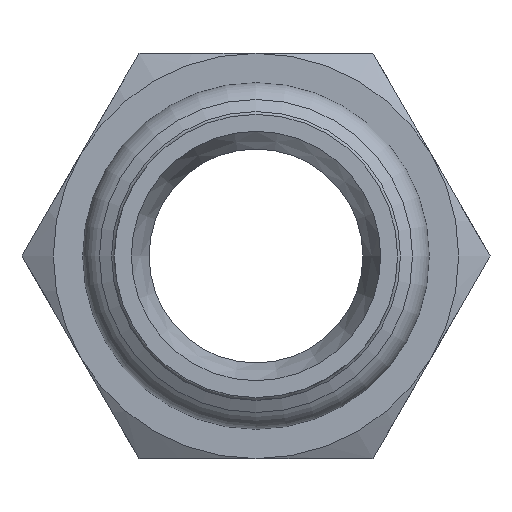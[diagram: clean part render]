
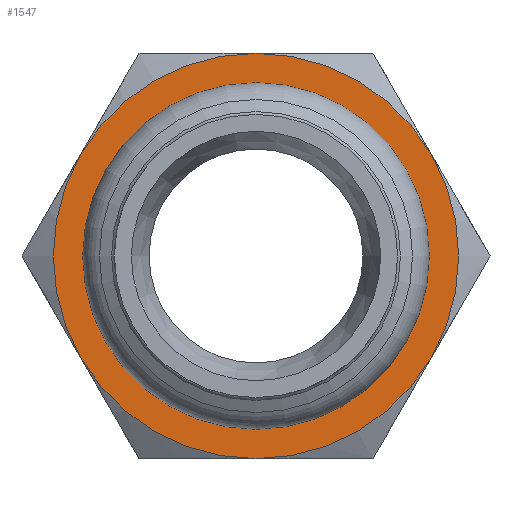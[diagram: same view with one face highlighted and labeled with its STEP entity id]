
A CAD part, left-side view. The second image highlights one B-rep face of the part: STEP entity #1547.
In plain terms, the highlighted planar face has unit normal (-1, 0, 0) as drawn and (0, 0, 1) by its records, which use the part's own axes.
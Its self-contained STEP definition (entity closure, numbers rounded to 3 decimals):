
#1024=CARTESIAN_POINT('',(15.588,9.,-6.));
#1025=VERTEX_POINT('',#1024);
#1039=CARTESIAN_POINT('',(0.,18.,-6.));
#1040=VERTEX_POINT('',#1039);
#1054=CARTESIAN_POINT('',(0.0,0.0,-6.));
#1055=DIRECTION('',(0.0,0.0,1.0));
#1056=DIRECTION('',(0.0,-1.0,0.0));
#1057=AXIS2_PLACEMENT_3D('',#1054,#1055,#1056);
#1058=CIRCLE('',#1057,18.0);
#1059=EDGE_CURVE('',#1025,#1040,#1058,.T.);
#1071=CARTESIAN_POINT('',(15.588,-9.,-6.0));
#1072=VERTEX_POINT('',#1071);
#1099=CARTESIAN_POINT('',(0.0,0.0,-6.));
#1100=DIRECTION('',(0.0,0.0,1.0));
#1101=DIRECTION('',(0.0,-1.0,0.0));
#1102=AXIS2_PLACEMENT_3D('',#1099,#1100,#1101);
#1103=CIRCLE('',#1102,18.0);
#1104=EDGE_CURVE('',#1072,#1025,#1103,.T.);
#1116=CARTESIAN_POINT('',(0.0,-18.0,-6.));
#1117=VERTEX_POINT('',#1116);
#1144=CARTESIAN_POINT('',(0.0,0.0,-6.));
#1145=DIRECTION('',(0.0,0.0,1.0));
#1146=DIRECTION('',(0.0,-1.0,0.0));
#1147=AXIS2_PLACEMENT_3D('',#1144,#1145,#1146);
#1148=CIRCLE('',#1147,18.0);
#1149=EDGE_CURVE('',#1117,#1072,#1148,.T.);
#1174=CARTESIAN_POINT('',(-15.588,-9.,-6.));
#1175=VERTEX_POINT('',#1174);
#1176=CARTESIAN_POINT('',(0.0,0.0,-6.));
#1177=DIRECTION('',(0.0,0.0,1.0));
#1178=DIRECTION('',(0.0,-1.0,0.0));
#1179=AXIS2_PLACEMENT_3D('',#1176,#1177,#1178);
#1180=CIRCLE('',#1179,18.0);
#1181=EDGE_CURVE('',#1175,#1117,#1180,.T.);
#1219=CARTESIAN_POINT('',(-15.588,9.,-6.));
#1220=VERTEX_POINT('',#1219);
#1221=CARTESIAN_POINT('',(0.0,0.0,-6.));
#1222=DIRECTION('',(0.0,0.0,1.0));
#1223=DIRECTION('',(0.0,-1.0,0.0));
#1224=AXIS2_PLACEMENT_3D('',#1221,#1222,#1223);
#1225=CIRCLE('',#1224,18.0);
#1226=EDGE_CURVE('',#1220,#1175,#1225,.T.);
#1264=CARTESIAN_POINT('',(0.0,0.0,-6.));
#1265=DIRECTION('',(0.0,0.0,1.0));
#1266=DIRECTION('',(0.0,-1.0,0.0));
#1267=AXIS2_PLACEMENT_3D('',#1264,#1265,#1266);
#1268=CIRCLE('',#1267,18.0);
#1269=EDGE_CURVE('',#1040,#1220,#1268,.T.);
#1488=CARTESIAN_POINT('',(13.0,0.,-6.));
#1489=VERTEX_POINT('',#1488);
#1490=CARTESIAN_POINT('',(0.0,0.0,-6.));
#1491=DIRECTION('',(0.0,0.0,1.0));
#1492=DIRECTION('',(-1.0,0.0,0.0));
#1493=AXIS2_PLACEMENT_3D('',#1490,#1491,#1492);
#1494=CIRCLE('',#1493,13.0);
#1495=EDGE_CURVE('',#1489,#1489,#1494,.T.);
#1531=CARTESIAN_POINT('',(0.,0.,-6.));
#1532=DIRECTION('',(0.0,0.0,1.0));
#1533=DIRECTION('',(1.0,0.0,0.0));
#1534=AXIS2_PLACEMENT_3D('',#1531,#1532,#1533);
#1535=PLANE('',#1534);
#1536=ORIENTED_EDGE('',*,*,#1269,.T.);
#1537=ORIENTED_EDGE('',*,*,#1226,.T.);
#1538=ORIENTED_EDGE('',*,*,#1181,.T.);
#1539=ORIENTED_EDGE('',*,*,#1149,.T.);
#1540=ORIENTED_EDGE('',*,*,#1104,.T.);
#1541=ORIENTED_EDGE('',*,*,#1059,.T.);
#1542=EDGE_LOOP('',(#1536,#1537,#1538,#1539,#1540,#1541));
#1543=FACE_OUTER_BOUND('',#1542,.T.);
#1544=ORIENTED_EDGE('',*,*,#1495,.F.);
#1545=EDGE_LOOP('',(#1544));
#1546=FACE_BOUND('',#1545,.T.);
#1547=ADVANCED_FACE('',(#1543,#1546),#1535,.T.);
